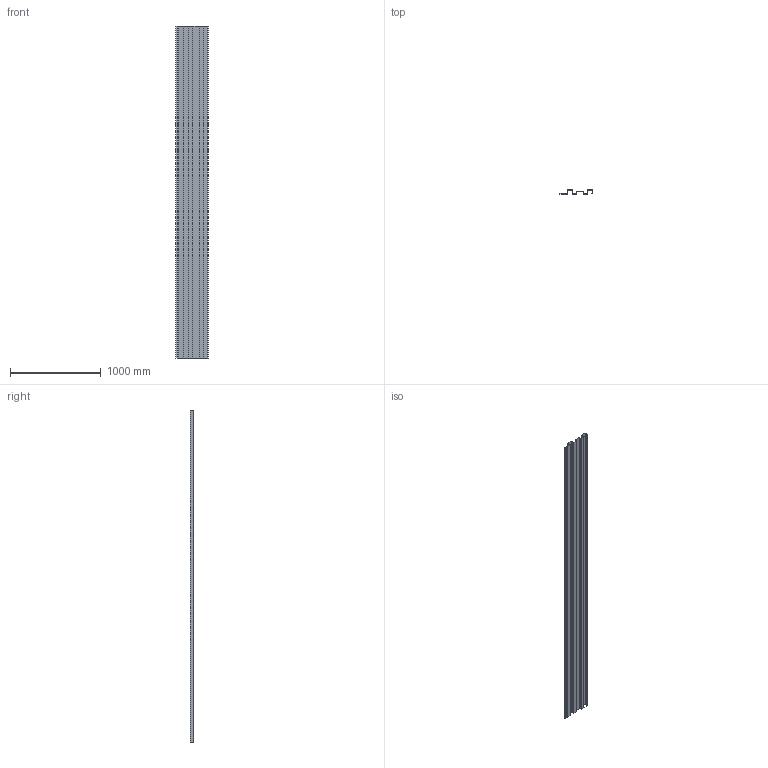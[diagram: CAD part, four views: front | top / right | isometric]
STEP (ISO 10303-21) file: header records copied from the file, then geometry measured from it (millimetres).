
FILE_DESCRIPTION(/* description */ (''),/* implementation_level */ '2;1');
FILE_NAME(/* name */ 'SPC1.2.stp',/* time_stamp */ '2025-02-27T13:40:23-05:00',/* author */ ('samuel.gauthier'),/* organization */ (''),/* preprocessor_version */ 'ST-DEVELOPER v20',/* originating_system */ 'Autodesk Inventor 2025',/* authorisation */ '');
FILE_SCHEMA (('AUTOMOTIVE_DESIGN { 1 0 10303 214 3 1 1 }'));
Length unit declared in the file: inch
Products named in the file (1): SPC1.2
Bounding box: 362.09 x 38.1 x 3657.6 mm (x, y, z)
Volume: 1135035.3 mm3; surface area: 4454912.4 mm2
Topology: 1 solids, 1 shells, 68 faces, 198 edges, 132 vertices
Faces by surface type: plane 40, cylinder 28
Entity records: 2303 total; most frequent: CARTESIAN_POINT 399, ORIENTED_EDGE 396, DIRECTION 392, EDGE_CURVE 198, LINE 142, VECTOR 142, VERTEX_POINT 132, AXIS2_PLACEMENT_3D 125
